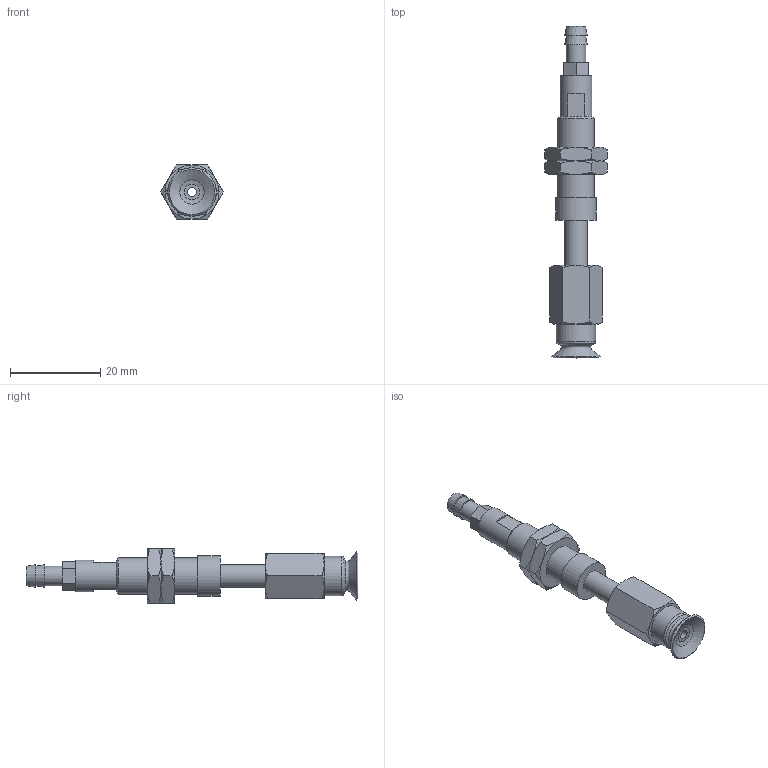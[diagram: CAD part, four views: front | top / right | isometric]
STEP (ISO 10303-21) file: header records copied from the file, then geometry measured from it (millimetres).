
FILE_DESCRIPTION(('STEP AP203'),'1');
FILE_NAME('-T.stp','2025-08-27T05:47:15',(' '),(' '),'Spatial InterOp 3D',' ',' ');
FILE_SCHEMA(('CONFIG_CONTROL_DESIGN'));
Length unit declared in the file: millimetre
Products named in the file (7): BNABPFTS-10A-10-※-T; ADAPTER; NAPATS-10A-10--M; Nut-10A-10-s; NAPFTS-10A-10-FBODY; BPFG-10A-※; T
Assembly tree (7 placements, depth 2):
  BNABPFTS-10A-10-※-T
    ADAPTER
    NAPATS-10A-10--M
    Nut-10A-10-s  x2
    NAPFTS-10A-10-FBODY
    BPFG-10A-※
    T
Bounding box: 13.86 x 73.5 x 12 mm (x, y, z)
Volume: 3668.6 mm3; surface area: 4490 mm2
Topology: 7 solids, 7 shells, 131 faces, 269 edges, 164 vertices
Faces by surface type: plane 54, cone 49, cylinder 19, torus 8, bspline 1
Full cylindrical faces by diameter (mm): 2 x3, 3 x1, 4 x2, 4.134 x1, 4.3 x1, 5 x3, 6 x2, 7 x1, 7.188 x2, 8 x1, 8.7 x1, 9 x1
Entity records: 3149 total; most frequent: CARTESIAN_POINT 733, DIRECTION 442, ORIENTED_EDGE 348, AXIS2_PLACEMENT_3D 201, EDGE_CURVE 174, EDGE_LOOP 170, FACE_OUTER_BOUND 135, VERTEX_POINT 128
